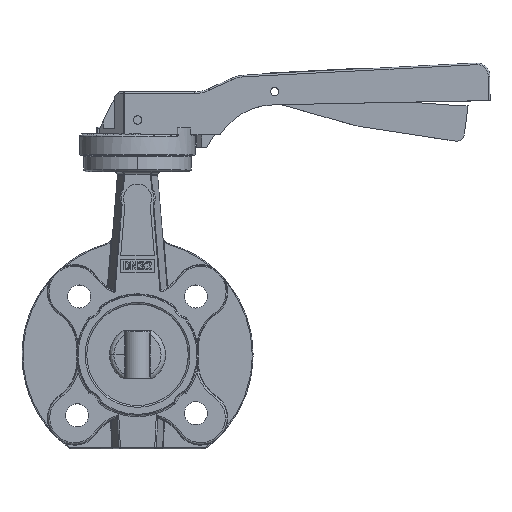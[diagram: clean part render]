
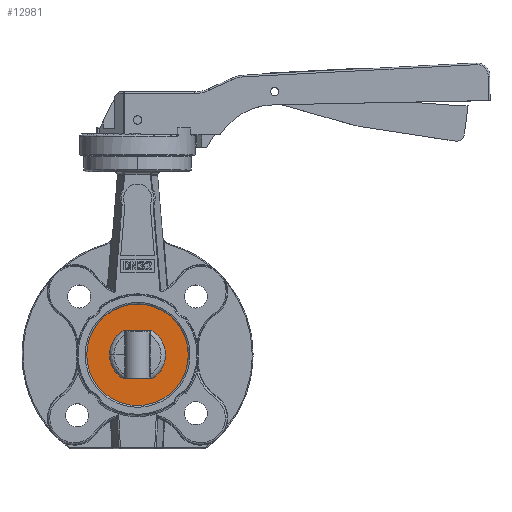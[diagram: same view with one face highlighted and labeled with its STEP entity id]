
A CAD part, top view. The second image highlights one B-rep face of the part: STEP entity #12981.
In plain terms, the highlighted planar face has unit normal (0, 0, 1).
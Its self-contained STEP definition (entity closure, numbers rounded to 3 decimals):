
#951 = CARTESIAN_POINT ( 'NONE',  ( 0., 0., 18.3 ) ) ;
#1928 = CARTESIAN_POINT ( 'NONE',  ( 8.709, 14.6, 18.3 ) ) ;
#3591 = CIRCLE ( 'NONE', #33908, 17. ) ;
#3800 = VECTOR ( 'NONE', #37742, 1000. ) ;
#5490 = DIRECTION ( 'NONE',  ( 0., 0., -1. ) ) ;
#5676 = CARTESIAN_POINT ( 'NONE',  ( 0., 0., 18.3 ) ) ;
#5817 = DIRECTION ( 'NONE',  ( -1., 0., 0. ) ) ;
#7016 = CARTESIAN_POINT ( 'NONE',  ( 0., 0., 18.3 ) ) ;
#8320 = FACE_OUTER_BOUND ( 'NONE', #52226, .T. ) ;
#9498 = EDGE_CURVE ( 'NONE', #30957, #39439, #26615, .T. ) ;
#10766 = CIRCLE ( 'NONE', #49092, 17. ) ;
#11302 = CARTESIAN_POINT ( 'NONE',  ( -8.709, -14.6, 18.3 ) ) ;
#11587 = DIRECTION ( 'NONE',  ( 0., 0., -1. ) ) ;
#11685 = CARTESIAN_POINT ( 'NONE',  ( -17., 0., 18.3 ) ) ;
#11968 = ORIENTED_EDGE ( 'NONE', *, *, #38370, .T. ) ;
#12764 = ORIENTED_EDGE ( 'NONE', *, *, #31272, .T. ) ;
#12981 = ADVANCED_FACE ( 'NONE', ( #8320, #50427 ), #31776, .T. ) ;
#13846 = VERTEX_POINT ( 'NONE', #32828 ) ;
#15700 = DIRECTION ( 'NONE',  ( -1., 0., 0. ) ) ;
#18168 = ORIENTED_EDGE ( 'NONE', *, *, #27156, .T. ) ;
#18200 = DIRECTION ( 'NONE',  ( 0., 0., -1. ) ) ;
#18425 = DIRECTION ( 'NONE',  ( -1., 0., 0. ) ) ;
#19005 = AXIS2_PLACEMENT_3D ( 'NONE', #7016, #49282, #45726 ) ;
#22072 = CIRCLE ( 'NONE', #33089, 30.75 ) ;
#22108 = VERTEX_POINT ( 'NONE', #11685 ) ;
#22133 = DIRECTION ( 'NONE',  ( 0., 0., -1. ) ) ;
#25625 = VERTEX_POINT ( 'NONE', #11302 ) ;
#25721 = EDGE_LOOP ( 'NONE', ( #11968, #38235, #33216, #18168, #12764 ) ) ;
#26079 = DIRECTION ( 'NONE',  ( 0., 0., -1. ) ) ;
#26615 = LINE ( 'NONE', #44825, #3800 ) ;
#27156 = EDGE_CURVE ( 'NONE', #39439, #43126, #28373, .T. ) ;
#27362 = VECTOR ( 'NONE', #29607, 1000. ) ;
#28373 = CIRCLE ( 'NONE', #52548, 17. ) ;
#29607 = DIRECTION ( 'NONE',  ( -1., 0., 0. ) ) ;
#30593 = ORIENTED_EDGE ( 'NONE', *, *, #46963, .F. ) ;
#30957 = VERTEX_POINT ( 'NONE', #47000 ) ;
#31272 = EDGE_CURVE ( 'NONE', #43126, #25625, #45403, .T. ) ;
#31776 = PLANE ( 'NONE',  #19005 ) ;
#32828 = CARTESIAN_POINT ( 'NONE',  ( -30.75, 0., 18.3 ) ) ;
#33089 = AXIS2_PLACEMENT_3D ( 'NONE', #951, #22133, #47507 ) ;
#33216 = ORIENTED_EDGE ( 'NONE', *, *, #9498, .T. ) ;
#33908 = AXIS2_PLACEMENT_3D ( 'NONE', #37278, #11587, #15700 ) ;
#37278 = CARTESIAN_POINT ( 'NONE',  ( 0., 0., 18.3 ) ) ;
#37307 = CARTESIAN_POINT ( 'NONE',  ( 8.709, -14.6, 18.3 ) ) ;
#37742 = DIRECTION ( 'NONE',  ( 1., 0., 0. ) ) ;
#38067 = EDGE_CURVE ( 'NONE', #41834, #13846, #40485, .T. ) ;
#38235 = ORIENTED_EDGE ( 'NONE', *, *, #44569, .T. ) ;
#38370 = EDGE_CURVE ( 'NONE', #25625, #22108, #3591, .T. ) ;
#38991 = DIRECTION ( 'NONE',  ( -1., 0., 0. ) ) ;
#39439 = VERTEX_POINT ( 'NONE', #1928 ) ;
#40485 = CIRCLE ( 'NONE', #43567, 30.75 ) ;
#41834 = VERTEX_POINT ( 'NONE', #43441 ) ;
#43126 = VERTEX_POINT ( 'NONE', #37307 ) ;
#43441 = CARTESIAN_POINT ( 'NONE',  ( 30.75, 0., 18.3 ) ) ;
#43567 = AXIS2_PLACEMENT_3D ( 'NONE', #51472, #26079, #38991 ) ;
#44569 = EDGE_CURVE ( 'NONE', #22108, #30957, #10766, .T. ) ;
#44825 = CARTESIAN_POINT ( 'NONE',  ( 0., 14.6, 18.3 ) ) ;
#45403 = LINE ( 'NONE', #55173, #27362 ) ;
#45726 = DIRECTION ( 'NONE',  ( 1., 0., 0. ) ) ;
#46963 = EDGE_CURVE ( 'NONE', #13846, #41834, #22072, .T. ) ;
#47000 = CARTESIAN_POINT ( 'NONE',  ( -8.709, 14.6, 18.3 ) ) ;
#47507 = DIRECTION ( 'NONE',  ( -1., 0., 0. ) ) ;
#49092 = AXIS2_PLACEMENT_3D ( 'NONE', #5676, #5490, #18425 ) ;
#49282 = DIRECTION ( 'NONE',  ( 0., 0., 1. ) ) ;
#50427 = FACE_BOUND ( 'NONE', #25721, .T. ) ;
#51472 = CARTESIAN_POINT ( 'NONE',  ( 0., 0., 18.3 ) ) ;
#52226 = EDGE_LOOP ( 'NONE', ( #30593, #54120 ) ) ;
#52548 = AXIS2_PLACEMENT_3D ( 'NONE', #52597, #18200, #5817 ) ;
#52597 = CARTESIAN_POINT ( 'NONE',  ( 0., 0., 18.3 ) ) ;
#54120 = ORIENTED_EDGE ( 'NONE', *, *, #38067, .F. ) ;
#55173 = CARTESIAN_POINT ( 'NONE',  ( 0., -14.6, 18.3 ) ) ;
